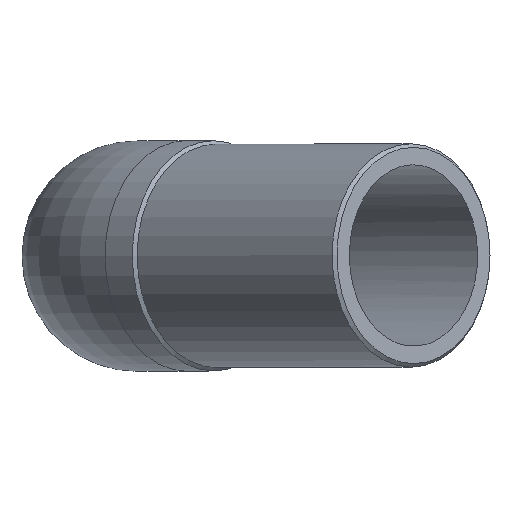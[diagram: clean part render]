
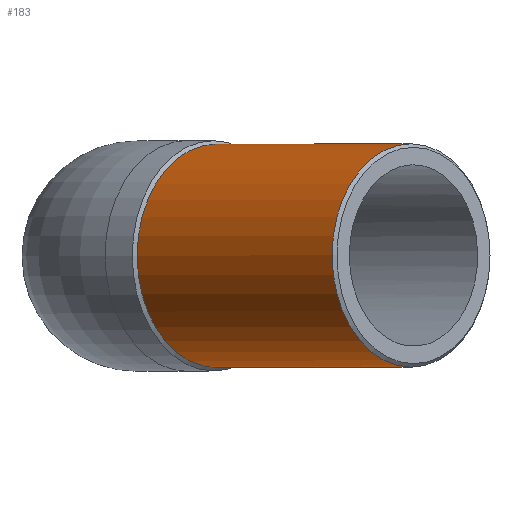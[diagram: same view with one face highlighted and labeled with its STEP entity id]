
A CAD part, top view. The second image highlights one B-rep face of the part: STEP entity #183.
In plain terms, the highlighted cylindrical face has radius 16 mm (diameter 32 mm), a full revolution.
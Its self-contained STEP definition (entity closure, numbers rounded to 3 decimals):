
#29=CYLINDRICAL_SURFACE('',#212,16.);
#37=ORIENTED_EDGE('',*,*,#75,.T.);
#38=ORIENTED_EDGE('',*,*,#73,.F.);
#73=EDGE_CURVE('',#92,#92,#110,.T.);
#75=EDGE_CURVE('',#94,#94,#112,.T.);
#92=VERTEX_POINT('',#301);
#94=VERTEX_POINT('',#306);
#110=CIRCLE('',#210,16.);
#112=CIRCLE('',#213,16.);
#126=EDGE_LOOP('',(#37));
#127=EDGE_LOOP('',(#38));
#153=FACE_BOUND('',#126,.T.);
#154=FACE_BOUND('',#127,.T.);
#183=ADVANCED_FACE('',(#153,#154),#29,.T.);
#210=AXIS2_PLACEMENT_3D('',#300,#242,#243);
#212=AXIS2_PLACEMENT_3D('',#304,#246,#247);
#213=AXIS2_PLACEMENT_3D('',#305,#248,#249);
#242=DIRECTION('',(-0.707,0.,-0.707));
#243=DIRECTION('',(-0.707,0.,0.707));
#246=DIRECTION('',(0.707,0.,0.707));
#247=DIRECTION('',(-0.707,0.,0.707));
#248=DIRECTION('',(-0.707,0.,-0.707));
#249=DIRECTION('',(-0.707,0.,0.707));
#300=CARTESIAN_POINT('',(11.314,0.,11.314));
#301=CARTESIAN_POINT('',(0.,0.,22.627));
#304=CARTESIAN_POINT('',(65.054,0.,65.054));
#305=CARTESIAN_POINT('',(39.244,0.,39.244));
#306=CARTESIAN_POINT('',(27.931,0.,50.558));
